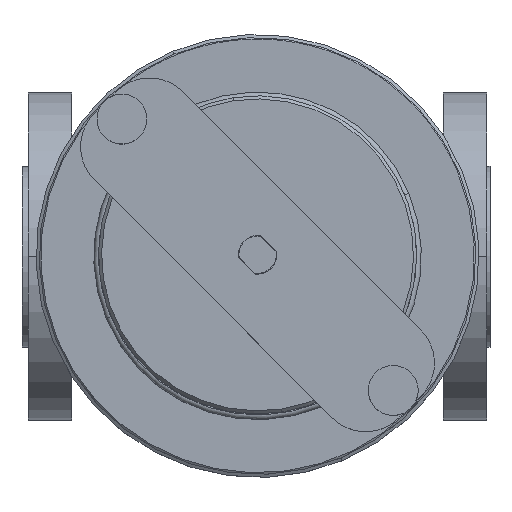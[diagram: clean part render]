
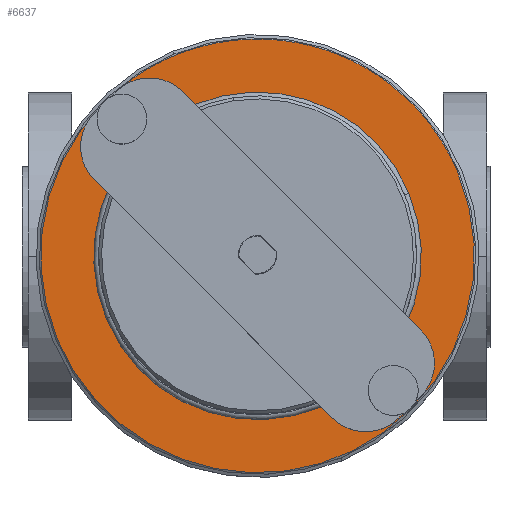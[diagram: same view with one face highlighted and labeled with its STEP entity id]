
A CAD part, top view. The second image highlights one B-rep face of the part: STEP entity #6637.
In plain terms, the highlighted planar face has unit normal (0, 0, 1).
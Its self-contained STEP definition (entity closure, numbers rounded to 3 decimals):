
#10 = EDGE_CURVE ( 'NONE', #193, #14725, #17087, .T. ) ;
#193 = VERTEX_POINT ( 'NONE', #2663 ) ;
#296 = CARTESIAN_POINT ( 'NONE',  ( -111.32, 43.487, 129.5 ) ) ;
#488 = VERTEX_POINT ( 'NONE', #14769 ) ;
#522 = CARTESIAN_POINT ( 'NONE',  ( -67.833, 0., 129.5 ) ) ;
#607 = CARTESIAN_POINT ( 'NONE',  ( -116.977, 37.83, 129.5 ) ) ;
#846 = AXIS2_PLACEMENT_3D ( 'NONE', #5352, #7986, #15372 ) ;
#1061 = EDGE_CURVE ( 'NONE', #8722, #8280, #14343, .T. ) ;
#1725 = VERTEX_POINT ( 'NONE', #8900 ) ;
#2090 = CARTESIAN_POINT ( 'NONE',  ( -30.003, -49.144, 129.5 ) ) ;
#2180 = EDGE_LOOP ( 'NONE', ( #11042, #3686, #4883, #9101, #7190, #12078, #9277, #16804, #17640, #18560 ) ) ;
#2368 = DIRECTION ( 'NONE',  ( -0.707, 0.707, 0. ) ) ;
#2397 = AXIS2_PLACEMENT_3D ( 'NONE', #12939, #11498, #15641 ) ;
#2663 = CARTESIAN_POINT ( 'NONE',  ( -18.689, -37.83, 129.5 ) ) ;
#2778 = CIRCLE ( 'NONE', #18407, 8. ) ;
#2973 = CIRCLE ( 'NONE', #5412, 52.5 ) ;
#3476 = EDGE_CURVE ( 'NONE', #17925, #17122, #9152, .T. ) ;
#3531 = DIRECTION ( 'NONE',  ( 0., 0., -1. ) ) ;
#3686 = ORIENTED_EDGE ( 'NONE', *, *, #18096, .T. ) ;
#3926 = CIRCLE ( 'NONE', #2397, 69.5 ) ;
#3960 = CARTESIAN_POINT ( 'NONE',  ( -111.32, 43.487, 129.5 ) ) ;
#4510 = CIRCLE ( 'NONE', #846, 69.5 ) ;
#4645 = EDGE_CURVE ( 'NONE', #488, #1725, #3926, .T. ) ;
#4656 = DIRECTION ( 'NONE',  ( 0., 0., -1. ) ) ;
#4726 = CARTESIAN_POINT ( 'NONE',  ( -19.329, 20.091, 129.5 ) ) ;
#4883 = ORIENTED_EDGE ( 'NONE', *, *, #9285, .T. ) ;
#4926 = DIRECTION ( 'NONE',  ( 0., 0., -1. ) ) ;
#4986 = DIRECTION ( 'NONE',  ( -1., 0., 0. ) ) ;
#5078 = FACE_BOUND ( 'NONE', #16062, .T. ) ;
#5352 = CARTESIAN_POINT ( 'NONE',  ( -67.833, 0., 129.5 ) ) ;
#5412 = AXIS2_PLACEMENT_3D ( 'NONE', #7783, #16701, #15260 ) ;
#5414 = CIRCLE ( 'NONE', #12766, 69.5 ) ;
#5547 = VERTEX_POINT ( 'NONE', #2090 ) ;
#6285 = DIRECTION ( 'NONE',  ( 0.707, 0.707, 0. ) ) ;
#6637 = ADVANCED_FACE ( 'NONE', ( #5078, #18221 ), #9315, .F. ) ;
#6901 = ORIENTED_EDGE ( 'NONE', *, *, #1061, .T. ) ;
#7046 = CIRCLE ( 'NONE', #11957, 8. ) ;
#7190 = ORIENTED_EDGE ( 'NONE', *, *, #7681, .F. ) ;
#7535 = DIRECTION ( 'NONE',  ( 0., 0., -1. ) ) ;
#7609 = AXIS2_PLACEMENT_3D ( 'NONE', #15200, #4926, #12735 ) ;
#7681 = EDGE_CURVE ( 'NONE', #18731, #14725, #13152, .T. ) ;
#7704 = DIRECTION ( 'NONE',  ( 0.707, 0.707, 0. ) ) ;
#7783 = CARTESIAN_POINT ( 'NONE',  ( -67.833, 0., 129.5 ) ) ;
#7986 = DIRECTION ( 'NONE',  ( 0., 0., -1. ) ) ;
#8057 = EDGE_CURVE ( 'NONE', #17122, #1725, #7046, .T. ) ;
#8280 = VERTEX_POINT ( 'NONE', #14318 ) ;
#8722 = VERTEX_POINT ( 'NONE', #4726 ) ;
#8849 = AXIS2_PLACEMENT_3D ( 'NONE', #18301, #3531, #2368 ) ;
#8900 = CARTESIAN_POINT ( 'NONE',  ( -116.977, 49.144, 129.5 ) ) ;
#9037 = ORIENTED_EDGE ( 'NONE', *, *, #12669, .T. ) ;
#9101 = ORIENTED_EDGE ( 'NONE', *, *, #10, .T. ) ;
#9152 = CIRCLE ( 'NONE', #11267, 8. ) ;
#9277 = ORIENTED_EDGE ( 'NONE', *, *, #10026, .T. ) ;
#9285 = EDGE_CURVE ( 'NONE', #5547, #193, #16890, .T. ) ;
#9315 = PLANE ( 'NONE',  #10416 ) ;
#9598 = CARTESIAN_POINT ( 'NONE',  ( -67.833, 0., 129.5 ) ) ;
#9705 = DIRECTION ( 'NONE',  ( 0., 0., -1. ) ) ;
#10026 = EDGE_CURVE ( 'NONE', #1725, #17925, #2778, .T. ) ;
#10273 = CARTESIAN_POINT ( 'NONE',  ( -3.623, 26.596, 129.5 ) ) ;
#10281 = DIRECTION ( 'NONE',  ( 0., 0., -1. ) ) ;
#10416 = AXIS2_PLACEMENT_3D ( 'NONE', #9598, #13825, #4986 ) ;
#10508 = CARTESIAN_POINT ( 'NONE',  ( -18.689, -49.144, 129.5 ) ) ;
#10513 = DIRECTION ( 'NONE',  ( 0.924, 0.383, 0. ) ) ;
#10747 = DIRECTION ( 'NONE',  ( 0.707, 0.707, 0. ) ) ;
#10848 = DIRECTION ( 'NONE',  ( 0., 0., -1. ) ) ;
#11042 = ORIENTED_EDGE ( 'NONE', *, *, #13277, .F. ) ;
#11055 = DIRECTION ( 'NONE',  ( 0.707, 0.707, 0. ) ) ;
#11267 = AXIS2_PLACEMENT_3D ( 'NONE', #296, #10281, #7704 ) ;
#11498 = DIRECTION ( 'NONE',  ( 0., 0., -1. ) ) ;
#11957 = AXIS2_PLACEMENT_3D ( 'NONE', #3960, #12771, #12415 ) ;
#12078 = ORIENTED_EDGE ( 'NONE', *, *, #13400, .F. ) ;
#12415 = DIRECTION ( 'NONE',  ( 0.707, 0.707, 0. ) ) ;
#12575 = AXIS2_PLACEMENT_3D ( 'NONE', #16409, #18130, #10747 ) ;
#12649 = CARTESIAN_POINT ( 'NONE',  ( -67.833, 0., 129.5 ) ) ;
#12669 = EDGE_CURVE ( 'NONE', #8280, #8722, #2973, .T. ) ;
#12735 = DIRECTION ( 'NONE',  ( 0.707, 0.707, 0. ) ) ;
#12766 = AXIS2_PLACEMENT_3D ( 'NONE', #12649, #10848, #16711 ) ;
#12771 = DIRECTION ( 'NONE',  ( 0., 0., -1. ) ) ;
#12833 = AXIS2_PLACEMENT_3D ( 'NONE', #17004, #9705, #11055 ) ;
#12939 = CARTESIAN_POINT ( 'NONE',  ( -67.833, 0., 129.5 ) ) ;
#13152 = CIRCLE ( 'NONE', #17461, 69.5 ) ;
#13277 = EDGE_CURVE ( 'NONE', #14725, #488, #5414, .T. ) ;
#13400 = EDGE_CURVE ( 'NONE', #1725, #18731, #4510, .T. ) ;
#13825 = DIRECTION ( 'NONE',  ( 0., 0., -1. ) ) ;
#14318 = CARTESIAN_POINT ( 'NONE',  ( -116.336, -20.091, 129.5 ) ) ;
#14343 = CIRCLE ( 'NONE', #8849, 52.5 ) ;
#14725 = VERTEX_POINT ( 'NONE', #10508 ) ;
#14769 = CARTESIAN_POINT ( 'NONE',  ( -132.042, -26.596, 129.5 ) ) ;
#14917 = CARTESIAN_POINT ( 'NONE',  ( -111.32, 43.487, 129.5 ) ) ;
#15200 = CARTESIAN_POINT ( 'NONE',  ( -24.346, -43.487, 129.5 ) ) ;
#15260 = DIRECTION ( 'NONE',  ( -0.707, 0.707, 0. ) ) ;
#15372 = DIRECTION ( 'NONE',  ( 0.924, 0.383, 0. ) ) ;
#15470 = CARTESIAN_POINT ( 'NONE',  ( -105.663, 49.144, 129.5 ) ) ;
#15641 = DIRECTION ( 'NONE',  ( 0.924, 0.383, 0. ) ) ;
#16062 = EDGE_LOOP ( 'NONE', ( #9037, #6901 ) ) ;
#16409 = CARTESIAN_POINT ( 'NONE',  ( -24.346, -43.487, 129.5 ) ) ;
#16701 = DIRECTION ( 'NONE',  ( 0., 0., -1. ) ) ;
#16711 = DIRECTION ( 'NONE',  ( 0.924, 0.383, 0. ) ) ;
#16804 = ORIENTED_EDGE ( 'NONE', *, *, #3476, .T. ) ;
#16890 = CIRCLE ( 'NONE', #12575, 8. ) ;
#17004 = CARTESIAN_POINT ( 'NONE',  ( -24.346, -43.487, 129.5 ) ) ;
#17087 = CIRCLE ( 'NONE', #7609, 8. ) ;
#17122 = VERTEX_POINT ( 'NONE', #607 ) ;
#17450 = CIRCLE ( 'NONE', #12833, 8. ) ;
#17461 = AXIS2_PLACEMENT_3D ( 'NONE', #522, #4656, #10513 ) ;
#17640 = ORIENTED_EDGE ( 'NONE', *, *, #8057, .T. ) ;
#17925 = VERTEX_POINT ( 'NONE', #15470 ) ;
#18096 = EDGE_CURVE ( 'NONE', #14725, #5547, #17450, .T. ) ;
#18130 = DIRECTION ( 'NONE',  ( 0., 0., -1. ) ) ;
#18221 = FACE_OUTER_BOUND ( 'NONE', #2180, .T. ) ;
#18301 = CARTESIAN_POINT ( 'NONE',  ( -67.833, 0., 129.5 ) ) ;
#18407 = AXIS2_PLACEMENT_3D ( 'NONE', #14917, #7535, #6285 ) ;
#18560 = ORIENTED_EDGE ( 'NONE', *, *, #4645, .F. ) ;
#18731 = VERTEX_POINT ( 'NONE', #10273 ) ;
